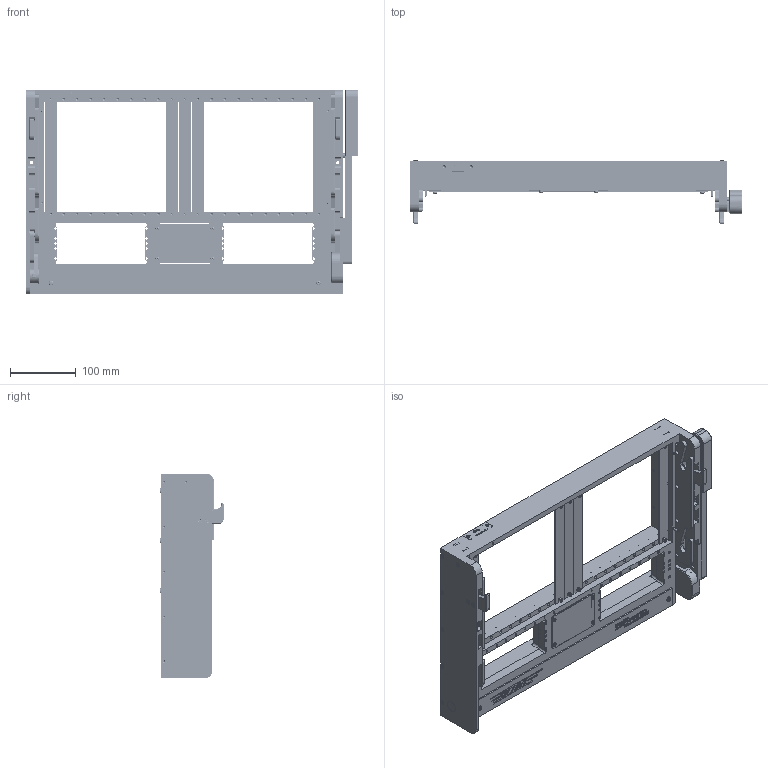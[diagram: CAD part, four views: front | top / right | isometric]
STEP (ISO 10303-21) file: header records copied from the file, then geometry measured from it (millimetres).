
FILE_DESCRIPTION(/* description */ (''),/* implementation_level */ '2;1');
FILE_NAME(/* name */ 'F:\CAD\CAD COMPLETE\web site project\Receivers\561911-RevB-STP\561911-RevB-STP.stp',/* time_stamp */ '2015-09-21T11:41:25+01:00',/* author */ ('davecooper'),/* organization */ (''),/* preprocessor_version */ 'ST-DEVELOPER v15.2',/* originating_system */ 'Autodesk Inventor 2014',/* authorisation */ '');
FILE_SCHEMA (('AUTOMOTIVE_DESIGN { 1 0 10303 214 3 1 1 }'));
Products named in the file (1): 561911-CU
Bounding box: 504.77 x 95.85 x 311.61 mm (x, y, z)
Volume: 2375861 mm3; surface area: 627162.7 mm2
Topology: 3 solids, 51 shells, 4698 faces, 12172 edges, 7897 vertices
Faces by surface type: plane 2489, bspline 1177, cylinder 705, cone 297, torus 24, sphere 6
Full cylindrical faces by diameter (mm): 1.524 x2, 1.981 x1, 2.184 x2, 2.322 x7, 2.388 x2, 2.642 x8, 2.845 x36, 3.175 x5, 3.251 x4, 3.302 x12, 3.454 x4, 3.505 x16, 3.551 x38, 3.556 x1, 3.658 x24, 3.81 x14, 3.962 x5, 3.967 x2, 4.166 x50, 4.496 x12, 4.521 x42, 4.775 x16, 4.826 x5, 5.105 x12, 5.309 x3, 5.573 x4, 5.74 x10, 5.944 x8, 6.325 x1, 6.337 x9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
Entity records: 151208 total; most frequent: CARTESIAN_POINT 45593, ORIENTED_EDGE 22162, DIRECTION 16754, EDGE_CURVE 11081, VERTEX_POINT 7532, LINE 6494, VECTOR 6494, EDGE_LOOP 5903
